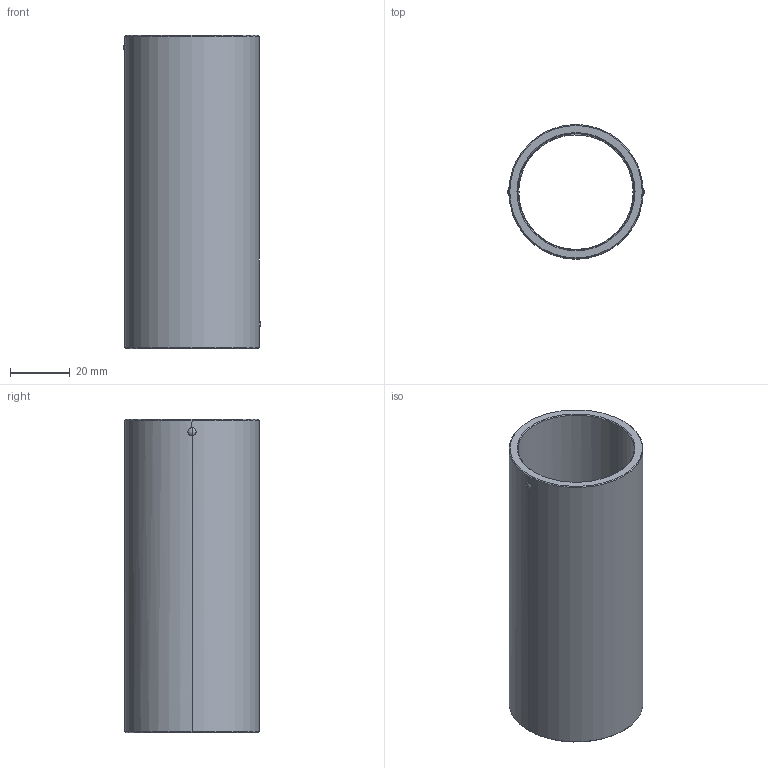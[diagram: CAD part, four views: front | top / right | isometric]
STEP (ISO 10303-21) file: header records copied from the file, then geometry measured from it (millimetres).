
FILE_DESCRIPTION(('CATIA V5 STEP Exchange'),'2;1');
FILE_NAME('C:\Users\Utente\Desktop\IO LAVORO\3D X SITO CF\X SITO\730\730-38x105.stp','2021-01-07T16:09:18+00:00',('none'),('none'),'CATIA Version 5 Release 20 GA (IN-10)','CATIA V5 STEP AP203','none');
FILE_SCHEMA(('CONFIG_CONTROL_DESIGN'));
Length unit declared in the file: millimetre
Products named in the file (1): 730-38x105
Bounding box: 45.99 x 45 x 105 mm (x, y, z)
Volume: 40658.3 mm3; surface area: 28918.3 mm2
Topology: 1 solids, 1 shells, 44 faces, 120 edges, 76 vertices
Faces by surface type: cylinder 18, cone 10, plane 8, sphere 8
Entity records: 1739 total; most frequent: CARTESIAN_POINT 676, ORIENTED_EDGE 240, DIRECTION 159, EDGE_CURVE 120, AXIS2_PLACEMENT_3D 78, VERTEX_POINT 76, B_SPLINE_CURVE_WITH_KNOTS 49, EDGE_LOOP 48
